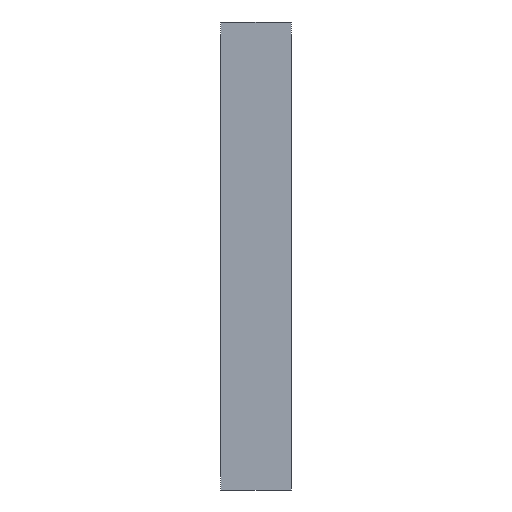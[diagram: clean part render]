
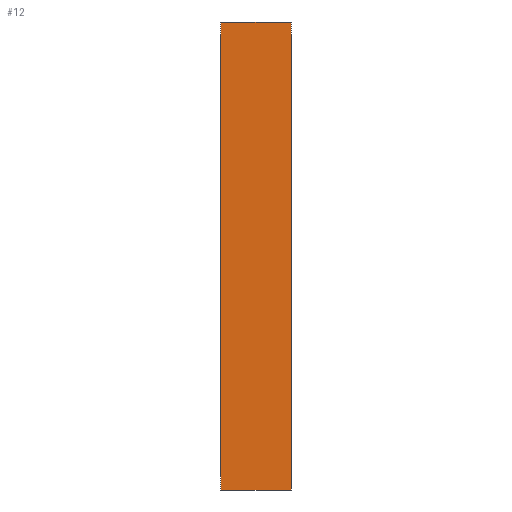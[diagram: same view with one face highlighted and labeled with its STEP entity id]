
A CAD part, left-side view. The second image highlights one B-rep face of the part: STEP entity #12.
In plain terms, the highlighted planar face has unit normal (-1, 0, 0).
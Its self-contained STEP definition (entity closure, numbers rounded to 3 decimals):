
#12 = ADVANCED_FACE ( 'NONE', ( #66 ), #1280, .F. ) ;
#66 = FACE_OUTER_BOUND ( 'NONE', #108, .T. ) ;
#108 = EDGE_LOOP ( 'NONE', ( #268, #267, #297, #413 ) ) ;
#267 = ORIENTED_EDGE ( 'NONE', *, *, #1552, .F. ) ;
#268 = ORIENTED_EDGE ( 'NONE', *, *, #1596, .T. ) ;
#297 = ORIENTED_EDGE ( 'NONE', *, *, #1517, .F. ) ;
#413 = ORIENTED_EDGE ( 'NONE', *, *, #1481, .T. ) ;
#515 = CARTESIAN_POINT ( 'NONE',  ( -251., 0., 214.5 ) ) ;
#520 = CARTESIAN_POINT ( 'NONE',  ( -251., 65., 214.5 ) ) ;
#525 = CARTESIAN_POINT ( 'NONE',  ( -251., 0., -214.5 ) ) ;
#532 = CARTESIAN_POINT ( 'NONE',  ( -251., 65., -214.5 ) ) ;
#669 = CARTESIAN_POINT ( 'NONE',  ( -251., 65., -214.5 ) ) ;
#674 = DIRECTION ( 'NONE',  ( 0., -1., 0. ) ) ;
#713 = CARTESIAN_POINT ( 'NONE',  ( -251., 65., 214.5 ) ) ;
#714 = DIRECTION ( 'NONE',  ( 0., 0., 1. ) ) ;
#759 = CARTESIAN_POINT ( 'NONE',  ( -251., 65., 214.5 ) ) ;
#760 = DIRECTION ( 'NONE',  ( 0., -1., 0. ) ) ;
#823 = CARTESIAN_POINT ( 'NONE',  ( -251., 0., 214.5 ) ) ;
#824 = DIRECTION ( 'NONE',  ( 0., 0., 1. ) ) ;
#925 = VERTEX_POINT ( 'NONE', #515 ) ;
#1017 = VECTOR ( 'NONE', #824, 1000. ) ;
#1018 = LINE ( 'NONE', #823, #1017 ) ;
#1083 = VECTOR ( 'NONE', #760, 1000. ) ;
#1084 = LINE ( 'NONE', #759, #1083 ) ;
#1174 = VECTOR ( 'NONE', #714, 1000. ) ;
#1175 = LINE ( 'NONE', #713, #1174 ) ;
#1196 = VECTOR ( 'NONE', #674, 1000. ) ;
#1228 = LINE ( 'NONE', #669, #1196 ) ;
#1241 = VERTEX_POINT ( 'NONE', #520 ) ;
#1247 = VERTEX_POINT ( 'NONE', #525 ) ;
#1254 = VERTEX_POINT ( 'NONE', #532 ) ;
#1269 = DIRECTION ( 'NONE',  ( 0., 0., -1. ) ) ;
#1270 = DIRECTION ( 'NONE',  ( 1., 0., 0. ) ) ;
#1279 = CARTESIAN_POINT ( 'NONE',  ( -251., 65., 214.5 ) ) ;
#1280 = PLANE ( 'NONE',  #1661 ) ;
#1481 = EDGE_CURVE ( 'NONE', #1254, #1247, #1228, .T. ) ;
#1517 = EDGE_CURVE ( 'NONE', #1254, #1241, #1175, .T. ) ;
#1552 = EDGE_CURVE ( 'NONE', #1241, #925, #1084, .T. ) ;
#1596 = EDGE_CURVE ( 'NONE', #1247, #925, #1018, .T. ) ;
#1661 = AXIS2_PLACEMENT_3D ( 'NONE', #1279, #1270, #1269 ) ;
